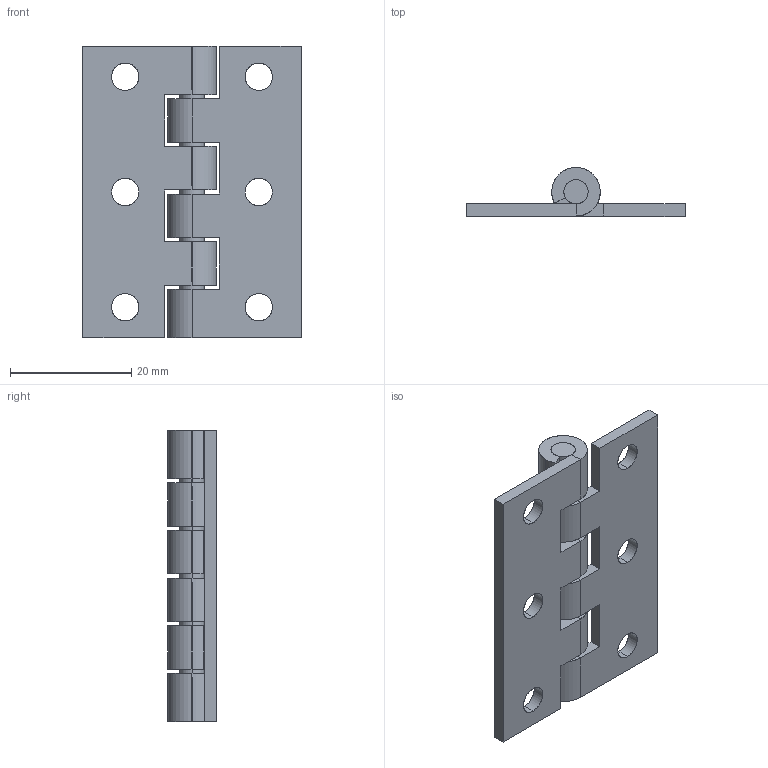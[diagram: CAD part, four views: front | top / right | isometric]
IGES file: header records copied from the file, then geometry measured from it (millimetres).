
Start section: SolidWorks IGES file using analytic representation for surfaces
Global section: file name: Z:\Mes documents\ATAO iges\Gamme CL\CL 438\CL 438.IGS; native system: SolidWorks 2008; preprocessor: SolidWorks 2008; author: cbrechard; date: 110628.183229; units: millimetre
Bounding box: 36 x 8 x 48 mm (x, y, z)
Surface area: 5974.6 mm2 (no closed solid volume)
Topology: 0 solids, 0 shells, 96 faces, 1464 edges, 1464 vertices
Faces by surface type: revolution 50, bspline 46
